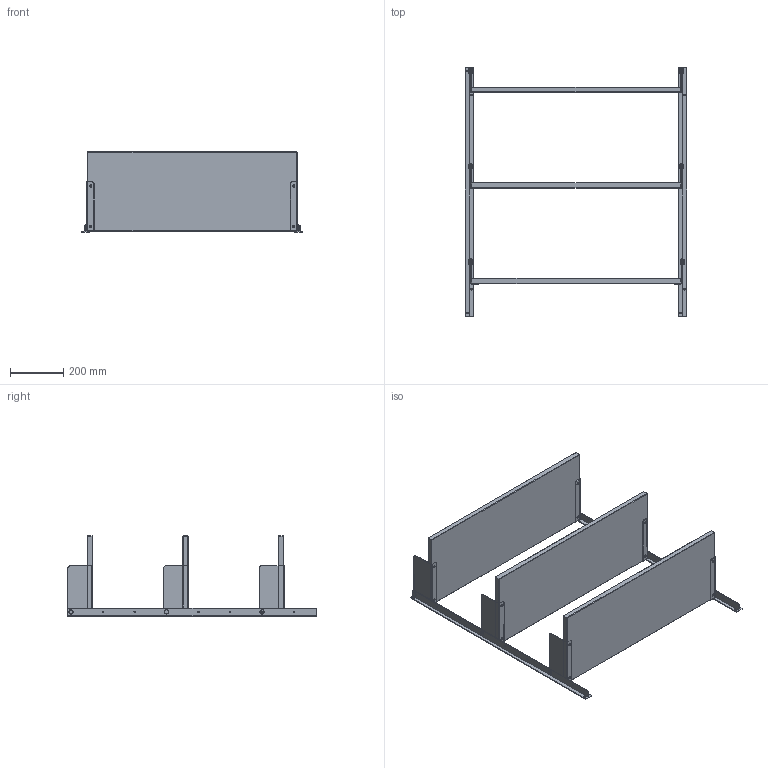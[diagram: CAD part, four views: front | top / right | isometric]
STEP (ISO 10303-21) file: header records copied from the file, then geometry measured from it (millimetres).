
FILE_DESCRIPTION (( 'STEP AP214' ), '1' );
FILE_NAME ('FW 900.STEP', '2022-04-25T09:31:04', ( '' ), ( '' ), 'SwSTEP 2.0', 'SolidWorks 2021', '' );
FILE_SCHEMA (( 'AUTOMOTIVE_DESIGN' ));
Length unit declared in the file: millimetre
Products named in the file (9): 419 9005; FW 900; 419 9029; 419 9006; DIN 653 M4 12 mm.stp; 419 9001; DIN 467 M4.stp; M3x5x4 Threaded Insert; 419 8002
Assembly tree (16 placements, depth 3):
  FW 900
    419 9029  x2
    419 8002  x3
      419 9001
      419 9005
      419 9006
      DIN 467 M4.stp
      DIN 653 M4 12 mm.stp
      M3x5x4 Threaded Insert
Bounding box: 832.6 x 936 x 303.3 mm (x, y, z)
Volume: 14765729.2 mm3; surface area: 2047053.8 mm2
Topology: 35 solids, 35 shells, 6474 faces, 14210 edges, 7884 vertices
Faces by surface type: plane 2522, cone 2356, cylinder 1500, torus 96
Entity records: 30875 total; most frequent: CARTESIAN_POINT 6655, DIRECTION 5183, ORIENTED_EDGE 5122, EDGE_CURVE 2561, AXIS2_PLACEMENT_3D 2186, VERTEX_POINT 1426, EDGE_LOOP 1211, ADVANCED_FACE 1160
